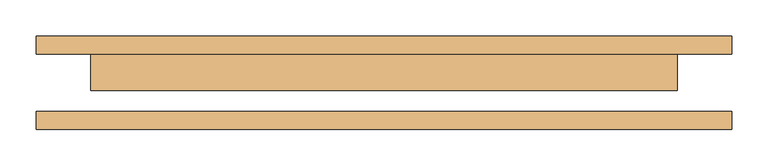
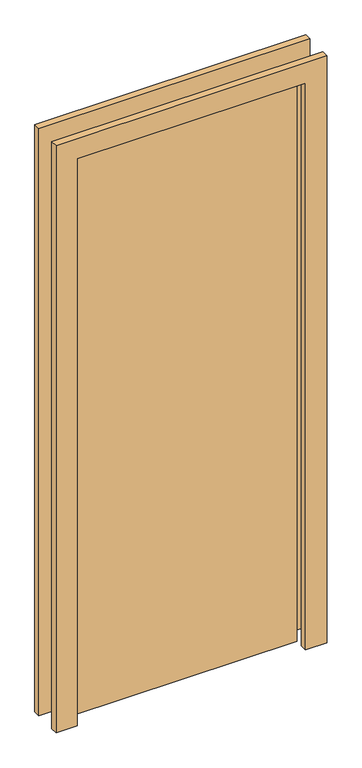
"""IFC4 building model written with IfcOpenShell, lengths in millimetres: door geometry, Одиночные-Щитовые : 0813 x 2134 мм."""

import ifcopenshell
import ifcopenshell.guid

model = None  # the IFC model being written
_history = None  # IfcOwnerHistory: only IFC2X3 demands one
_inside = {}  # id of a spatial element -> (the spatial element, [elements in it])
_under = {}  # id of a project, library or spatial element -> (it, [spatial elements below it])
_declared = {}  # id of a project -> (the project, [libraries it declares])
_typed = {}  # id of a type object -> (the type object, [elements of that type])
_made_of = {}  # id of a material, layer set ... -> (it, [elements and type objects made of it])


def new_model(schema):
    """Start an empty IFC model of exactly this schema.

    Asked for "IFC4X3", IfcOpenShell would pick the latest addendum, in which some entities
    have other attributes; the version numbers below select the first issue.
    IFC2X3 requires an IfcOwnerHistory on every rooted entity: one is made here for all.
    """
    global model, _history
    if schema == "IFC4X3":
        model = ifcopenshell.file(schema_version=(4, 3, 0, 0))
    else:
        model = ifcopenshell.file(schema=schema)
    _inside.clear()
    _under.clear()
    _declared.clear()
    _typed.clear()
    _made_of.clear()
    _history = None
    if model.schema == "IFC2X3":
        org = make("IfcOrganization", Name="unknown")
        user = make(
            "IfcPersonAndOrganization",
            ThePerson=make("IfcPerson", FamilyName="unknown"),
            TheOrganization=org,
        )
        app = make(
            "IfcApplication",
            ApplicationDeveloper=org,
            Version="unknown",
            ApplicationFullName="unknown",
            ApplicationIdentifier="unknown",
        )
        _history = make(
            "IfcOwnerHistory",
            OwningUser=user,
            OwningApplication=app,
            ChangeAction="ADDED",
            CreationDate=0,
        )
    return model


def make(cls, **values):
    """One entity of the class cls with the attributes given. An attribute that is None is left unset."""
    return model.create_entity(
        cls, **{name: value for name, value in values.items() if value is not None}
    )


def rooted(cls, **values):
    """An entity with a GlobalId (a new one), such as an element, a storey or a relation."""
    return make(cls, GlobalId=ifcopenshell.guid.new(), OwnerHistory=_history, **values)


def si_unit(unit_type, name, prefix=None):
    """IfcSIUnit, for example si_unit("LENGTHUNIT", "METRE", prefix="MILLI")."""
    return make("IfcSIUnit", UnitType=unit_type, Prefix=prefix, Name=name)


def assignment(units):
    """IfcUnitAssignment: the units of a project."""
    return None if units is None else make("IfcUnitAssignment", Units=units)


def point(xyz):
    """IfcCartesianPoint."""
    return None if xyz is None else make("IfcCartesianPoint", Coordinates=xyz)


def direction(xyz):
    """IfcDirection."""
    return None if xyz is None else make("IfcDirection", DirectionRatios=xyz)


def frame(location, z_axis=None, x_axis=None):
    """IfcAxis2Placement3D, a coordinate frame: its origin and axes. An axis left out is left unset."""
    return make(
        "IfcAxis2Placement3D",
        Location=point(location),
        Axis=direction(z_axis),
        RefDirection=direction(x_axis),
    )


def origin():
    """The frame at (0, 0, 0) with its axes left unset."""
    return frame((0.0, 0.0, 0.0))


def origin_with_axes():
    """The frame at (0, 0, 0) with the z axis (0, 0, 1) and the x axis (1, 0, 0) written out."""
    return frame((0.0, 0.0, 0.0), z_axis=(0.0, 0.0, 1.0), x_axis=(1.0, 0.0, 0.0))


def place(relative_to, where):
    """IfcLocalPlacement: puts the frame where relative to a parent placement (None: the world)."""
    return make(
        "IfcLocalPlacement", PlacementRelTo=relative_to, RelativePlacement=where
    )


def context(
    kind, dimensions, precision=None, world=None, true_north=None, identifier=None
):
    """IfcGeometricRepresentationContext, for example the 3D "Model" context."""
    return make(
        "IfcGeometricRepresentationContext",
        ContextIdentifier=identifier,
        ContextType=kind,
        CoordinateSpaceDimension=dimensions,
        Precision=precision,
        WorldCoordinateSystem=world,
        TrueNorth=true_north,
    )


def project(units=None, contexts=None):
    """IfcProject with its units and contexts."""
    return rooted(
        "IfcProject",
        Name="project",
        RepresentationContexts=contexts,
        UnitsInContext=assignment(units),
    )


def spatial(cls, under=None, at=None, **own):
    """A site, building, storey or space (cls), placed at a placement, below another one or the project."""
    s = rooted(cls, ObjectPlacement=at, **own)
    if under is not None:
        _under.setdefault(under.id(), (under, []))[1].append(s)
    return s


def polyline(points):
    """IfcPolyline through the points."""
    return make("IfcPolyline", Points=[point(p) for p in points])


def outline(outer, holes=None, kind="AREA"):
    """IfcArbitraryClosedProfileDef: a profile drawn as a closed curve; with holes, ...WithVoids."""
    if holes is None:
        return make("IfcArbitraryClosedProfileDef", ProfileType=kind, OuterCurve=outer)
    return make(
        "IfcArbitraryProfileDefWithVoids",
        ProfileType=kind,
        OuterCurve=outer,
        InnerCurves=holes,
    )


def extrude(swept, where, along, depth):
    """IfcExtrudedAreaSolid: the profile swept, set in the frame where, extruded along a direction by depth."""
    return make(
        "IfcExtrudedAreaSolid",
        SweptArea=swept,
        Position=where,
        ExtrudedDirection=direction(along),
        Depth=depth,
    )


def shape(context_of_items, identifier, shape_type, items):
    """IfcShapeRepresentation: the items that make up one representation, for example the "Body"."""
    return make(
        "IfcShapeRepresentation",
        ContextOfItems=context_of_items,
        RepresentationIdentifier=identifier,
        RepresentationType=shape_type,
        Items=items,
    )


def source(mapping_origin, context_of_items, identifier, shape_type, items):
    """IfcRepresentationMap: a shape defined once, which mapped items show again and again."""
    return make(
        "IfcRepresentationMap",
        MappingOrigin=mapping_origin,
        MappedRepresentation=shape(context_of_items, identifier, shape_type, items),
    )


def transform(
    local_origin,
    x_axis=None,
    y_axis=None,
    z_axis=None,
    scale=None,
    scale2=None,
    scale3=None,
    uniform=True,
):
    """IfcCartesianTransformationOperator3D, or its non-uniform kind. x_axis, y_axis, z_axis: its Axis1, 2, 3."""
    if uniform:
        return make(
            "IfcCartesianTransformationOperator3D",
            Axis1=direction(x_axis),
            Axis2=direction(y_axis),
            LocalOrigin=point(local_origin),
            Scale=scale,
            Axis3=direction(z_axis),
        )
    return make(
        "IfcCartesianTransformationOperator3DnonUniform",
        Axis1=direction(x_axis),
        Axis2=direction(y_axis),
        LocalOrigin=point(local_origin),
        Scale=scale,
        Axis3=direction(z_axis),
        Scale2=scale2,
        Scale3=scale3,
    )


def mapped(mapping_source, mapping_target):
    """IfcMappedItem: shows the shape of a source again, moved by a transform."""
    return make(
        "IfcMappedItem", MappingSource=mapping_source, MappingTarget=mapping_target
    )


def made_of(thing, what):
    """Note that an element or type object is made of a material, layer set ...; save() writes the relation."""
    if what is not None:
        _made_of.setdefault(what.id(), (what, []))[1].append(thing)
    return thing


def element(
    cls,
    number,
    at=None,
    inside=None,
    cuts=None,
    type_object=None,
    material=None,
    context=None,
    identifier="Body",
    shape_type=None,
    held_by="IfcProductDefinitionShape",
    body=None,
    shapes=None,
    **own,
):
    """One element of the class cls, such as IfcWall. Its Tag is "e" and its number.

    at: its placement. inside: the storey or other place that contains it. cuts: it is an
    opening in that element (IfcRelVoidsElement). A single representation is given by context,
    identifier, shape_type and body (its items); several are given by shapes. held_by: the class
    of the entity that holds the representations. save() writes the other relations.
    """
    e = rooted(cls, Tag="e%d" % number, ObjectPlacement=at, **own)
    if body is not None:
        shapes = [shape(context, identifier, shape_type, body)]
    if shapes is not None:
        e.Representation = make(held_by, Representations=shapes)
    if inside is not None:
        _inside.setdefault(inside.id(), (inside, []))[1].append(e)
    if cuts is not None:
        rooted(
            "IfcRelVoidsElement", RelatingBuildingElement=cuts, RelatedOpeningElement=e
        )
    if type_object is not None:
        _typed.setdefault(type_object.id(), (type_object, []))[1].append(e)
    return made_of(e, material)


def aggregate(whole, parts):
    """IfcRelAggregates: a whole, such as a stair, and the parts it consists of."""
    return rooted("IfcRelAggregates", RelatingObject=whole, RelatedObjects=parts)


def save(model, path):
    """Write the relations noted so far, then the file.

    IfcRelAggregates (storeys below a building ...), IfcRelContainedInSpatialStructure (elements
    in a storey), IfcRelDefinesByType, IfcRelAssociatesMaterial and IfcRelDeclares: one each for
    every whole, place, type object, material and project.
    """
    for whole, parts in _under.values():
        aggregate(whole, parts)
    for where, things in _inside.values():
        rooted(
            "IfcRelContainedInSpatialStructure",
            RelatedElements=things,
            RelatingStructure=where,
        )
    for kind, things in _typed.values():
        rooted("IfcRelDefinesByType", RelatedObjects=things, RelatingType=kind)
    for what, things in _made_of.values():
        rooted("IfcRelAssociatesMaterial", RelatedObjects=things, RelatingMaterial=what)
    for by, libraries in _declared.values():
        rooted("IfcRelDeclares", RelatingContext=by, RelatedDefinitions=libraries)
    model.write(path)


def door_526e4cd8(model_context):
    return source(origin(), model_context, "Body", "SweptSolid", [
        extrude(outline(polyline([(2210.0, -482.5), (0.0, -482.5), (0.0, -406.5), (2134.0, -406.5), (2134.0, 406.5), (0.0, 406.5), (0.0, 482.5), (2210.0, 482.5), (2210.0, -482.5)])), frame((0.0, 40.0, 0.0), z_axis=(0.0, 1.0, 0.0), x_axis=(0.0, 0.0, 1.0)), (0.0, 0.0, 1.0), 25.0),
        extrude(outline(polyline([(2210.0, 482.5), (2210.0, -482.5), (0.0, -482.5), (0.0, -406.5), (2134.0, -406.5), (2134.0, 406.5), (0.0, 406.5), (0.0, 482.5), (2210.0, 482.5)])), frame((0.0, -65.0, 0.0), z_axis=(0.0, 1.0, 0.0), x_axis=(0.0, 0.0, 1.0)), (0.0, 0.0, 1.0), 25.0),
        extrude(outline(polyline([(406.5, -11.0), (-406.5, -11.0), (-406.5, 40.0), (406.5, 40.0), (406.5, -11.0)])), origin_with_axes(), (0.0, 0.0, 1.0), 2134.0),
    ])


if __name__ == "__main__":
    model = new_model("IFC4")
    model_context = context("Model", 3, world=origin())
    ifc_project = project(units=[si_unit("LENGTHUNIT", "METRE", prefix="MILLI")], contexts=[model_context])
    site = spatial("IfcSite", under=ifc_project)
    building = spatial("IfcBuilding", under=site)
    placement = place(None, origin())
    door_shape = door_526e4cd8(model_context)
    element("IfcDoor", 1, ObjectType="Одиночные-Щитовые : 0813 x 2134 мм", at=placement, inside=building, context=model_context, shape_type="MappedRepresentation", body=[
        mapped(door_shape, transform((0.0, 0.0, 0.0), x_axis=(1.0, 0.0, 0.0), y_axis=(0.0, 1.0, 0.0), z_axis=(0.0, 0.0, 1.0))),
    ])
    save(model, "model.ifc")
